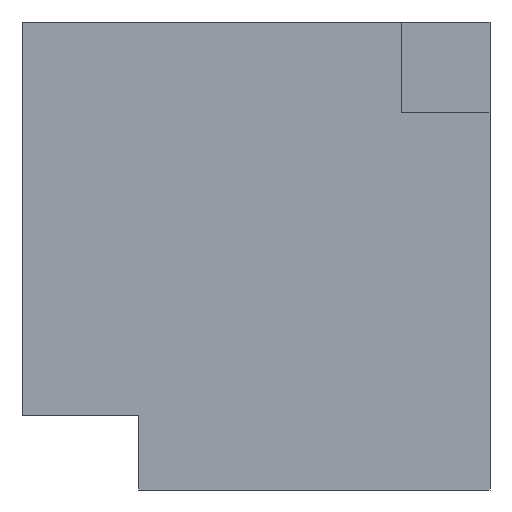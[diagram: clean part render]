
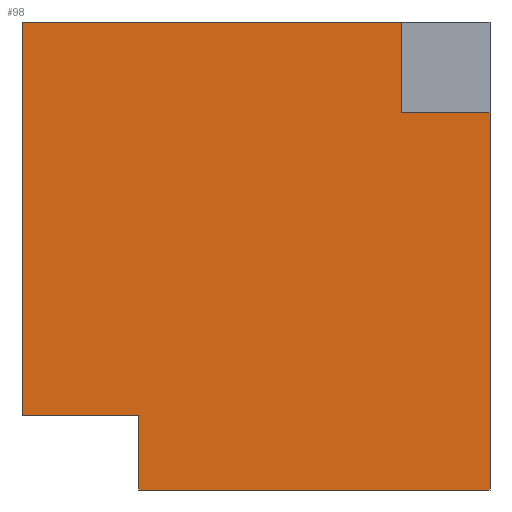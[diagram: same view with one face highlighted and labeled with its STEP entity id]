
A CAD part, left-side view. The second image highlights one B-rep face of the part: STEP entity #98.
In plain terms, the highlighted planar face has unit normal (-1, 0, 0).
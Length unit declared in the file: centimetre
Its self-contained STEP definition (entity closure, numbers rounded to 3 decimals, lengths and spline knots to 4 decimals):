
#3 = DIRECTION ( 'NONE',  ( 0., 0., -1. ) ) ;
#10 = EDGE_CURVE ( 'NONE', #879, #306, #347, .T. ) ;
#19 = CARTESIAN_POINT ( 'NONE',  ( 0., 1000., 1000. ) ) ;
#23 = LINE ( 'NONE', #424, #118 ) ;
#65 = VECTOR ( 'NONE', #307, 100. ) ;
#98 = ADVANCED_FACE ( 'NONE', ( #297 ), #498, .F. ) ;
#101 = CARTESIAN_POINT ( 'NONE',  ( 0., 189.8407, 806.2602 ) ) ;
#112 = LINE ( 'NONE', #115, #164 ) ;
#115 = CARTESIAN_POINT ( 'NONE',  ( 0., 1000., 0. ) ) ;
#118 = VECTOR ( 'NONE', #712, 100. ) ;
#139 = CARTESIAN_POINT ( 'NONE',  ( 0., 750.3076, 158.5353 ) ) ;
#153 = VERTEX_POINT ( 'NONE', #426 ) ;
#164 = VECTOR ( 'NONE', #382, 100. ) ;
#213 = VECTOR ( 'NONE', #228, 100. ) ;
#228 = DIRECTION ( 'NONE',  ( 0., 0., 1. ) ) ;
#264 = VECTOR ( 'NONE', #324, 100. ) ;
#274 = EDGE_LOOP ( 'NONE', ( #353, #538, #808, #722, #646, #405, #706, #433 ) ) ;
#293 = DIRECTION ( 'NONE',  ( 0., 0., -1. ) ) ;
#297 = FACE_OUTER_BOUND ( 'NONE', #274, .T. ) ;
#300 = AXIS2_PLACEMENT_3D ( 'NONE', #19, #779, #293 ) ;
#305 = LINE ( 'NONE', #584, #316 ) ;
#306 = VERTEX_POINT ( 'NONE', #447 ) ;
#307 = DIRECTION ( 'NONE',  ( 0., -1., 0. ) ) ;
#316 = VECTOR ( 'NONE', #528, 100. ) ;
#324 = DIRECTION ( 'NONE',  ( 0., 1., 0. ) ) ;
#330 = EDGE_CURVE ( 'NONE', #879, #153, #112, .T. ) ;
#340 = CARTESIAN_POINT ( 'NONE',  ( 0., 750.3076, 0. ) ) ;
#347 = LINE ( 'NONE', #340, #739 ) ;
#348 = VERTEX_POINT ( 'NONE', #656 ) ;
#353 = ORIENTED_EDGE ( 'NONE', *, *, #583, .T. ) ;
#362 = EDGE_CURVE ( 'NONE', #364, #153, #305, .T. ) ;
#364 = VERTEX_POINT ( 'NONE', #512 ) ;
#373 = CARTESIAN_POINT ( 'NONE',  ( 0., 1000., 1000. ) ) ;
#382 = DIRECTION ( 'NONE',  ( 0., -1., 0. ) ) ;
#393 = VERTEX_POINT ( 'NONE', #101 ) ;
#394 = CARTESIAN_POINT ( 'NONE',  ( 0., 750.3076, 0. ) ) ;
#405 = ORIENTED_EDGE ( 'NONE', *, *, #640, .F. ) ;
#411 = CARTESIAN_POINT ( 'NONE',  ( 0., 1000., 158.5353 ) ) ;
#424 = CARTESIAN_POINT ( 'NONE',  ( 0., 0., 806.2602 ) ) ;
#426 = CARTESIAN_POINT ( 'NONE',  ( 0., 0., 0. ) ) ;
#433 = ORIENTED_EDGE ( 'NONE', *, *, #796, .F. ) ;
#441 = LINE ( 'NONE', #653, #65 ) ;
#447 = CARTESIAN_POINT ( 'NONE',  ( 0., 750.3076, 158.5353 ) ) ;
#483 = EDGE_CURVE ( 'NONE', #306, #818, #532, .T. ) ;
#498 = PLANE ( 'NONE',  #300 ) ;
#512 = CARTESIAN_POINT ( 'NONE',  ( 0., 0., 806.2602 ) ) ;
#528 = DIRECTION ( 'NONE',  ( 0., 0., -1. ) ) ;
#532 = LINE ( 'NONE', #139, #264 ) ;
#538 = ORIENTED_EDGE ( 'NONE', *, *, #483, .F. ) ;
#583 = EDGE_CURVE ( 'NONE', #741, #818, #778, .T. ) ;
#584 = CARTESIAN_POINT ( 'NONE',  ( 0., 0., 1000. ) ) ;
#640 = EDGE_CURVE ( 'NONE', #393, #364, #23, .T. ) ;
#641 = LINE ( 'NONE', #848, #213 ) ;
#646 = ORIENTED_EDGE ( 'NONE', *, *, #362, .F. ) ;
#647 = VECTOR ( 'NONE', #3, 100. ) ;
#653 = CARTESIAN_POINT ( 'NONE',  ( 0., 1000., 1000. ) ) ;
#656 = CARTESIAN_POINT ( 'NONE',  ( 0., 189.8407, 1000. ) ) ;
#669 = EDGE_CURVE ( 'NONE', #393, #348, #641, .T. ) ;
#706 = ORIENTED_EDGE ( 'NONE', *, *, #669, .T. ) ;
#712 = DIRECTION ( 'NONE',  ( 0., -1., 0. ) ) ;
#722 = ORIENTED_EDGE ( 'NONE', *, *, #330, .T. ) ;
#739 = VECTOR ( 'NONE', #752, 100. ) ;
#741 = VERTEX_POINT ( 'NONE', #373 ) ;
#752 = DIRECTION ( 'NONE',  ( 0., 0., 1. ) ) ;
#773 = CARTESIAN_POINT ( 'NONE',  ( 0., 1000., 1000. ) ) ;
#778 = LINE ( 'NONE', #773, #647 ) ;
#779 = DIRECTION ( 'NONE',  ( 1., 0., 0. ) ) ;
#796 = EDGE_CURVE ( 'NONE', #741, #348, #441, .T. ) ;
#808 = ORIENTED_EDGE ( 'NONE', *, *, #10, .F. ) ;
#818 = VERTEX_POINT ( 'NONE', #411 ) ;
#848 = CARTESIAN_POINT ( 'NONE',  ( 0., 189.8407, 806.2602 ) ) ;
#879 = VERTEX_POINT ( 'NONE', #394 ) ;
